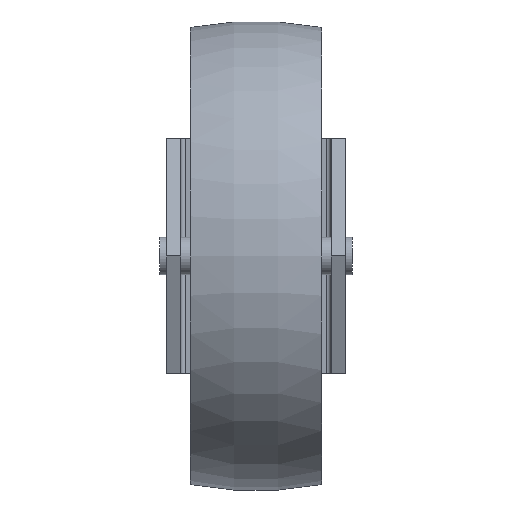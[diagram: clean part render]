
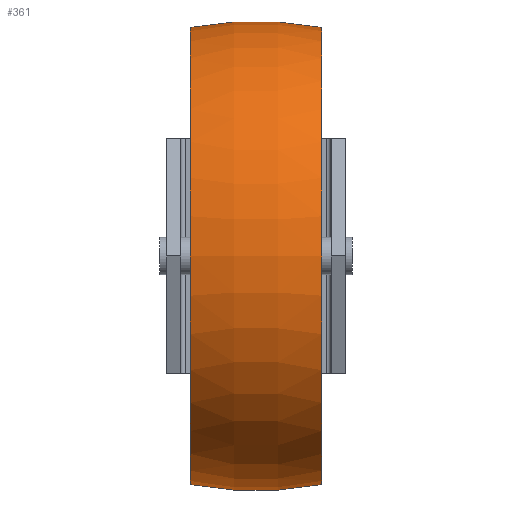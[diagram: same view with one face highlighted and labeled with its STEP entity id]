
A CAD part, front view. The second image highlights one B-rep face of the part: STEP entity #361.
In plain terms, the highlighted toroidal (fillet/blend) face has major radius 25 mm and minor radius 75 mm.
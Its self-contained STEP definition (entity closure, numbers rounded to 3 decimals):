
#45 = DIRECTION ( 'NONE',  ( 0., 0., 1. ) ) ;
#54 = VERTEX_POINT ( 'NONE', #654 ) ;
#57 = FACE_OUTER_BOUND ( 'NONE', #204, .T. ) ;
#70 = VERTEX_POINT ( 'NONE', #1001 ) ;
#79 = DIRECTION ( 'NONE',  ( 1., 0., 0. ) ) ;
#170 = VERTEX_POINT ( 'NONE', #177 ) ;
#177 = CARTESIAN_POINT ( 'NONE',  ( -14., -78., -48.682 ) ) ;
#204 = EDGE_LOOP ( 'NONE', ( #509, #577, #411, #929 ) ) ;
#220 = DIRECTION ( 'NONE',  ( 0., 0., -1. ) ) ;
#223 = VERTEX_POINT ( 'NONE', #313 ) ;
#242 = CARTESIAN_POINT ( 'NONE',  ( 14., -78., 0. ) ) ;
#291 = AXIS2_PLACEMENT_3D ( 'NONE', #1034, #685, #403 ) ;
#313 = CARTESIAN_POINT ( 'NONE',  ( -14., -78., 48.682 ) ) ;
#346 = DIRECTION ( 'NONE',  ( 0., 0., -1. ) ) ;
#361 = ADVANCED_FACE ( 'NONE', ( #57 ), #529, .T. ) ;
#364 = EDGE_CURVE ( 'NONE', #170, #54, #486, .T. ) ;
#378 = DIRECTION ( 'NONE',  ( 0., 1., 0. ) ) ;
#391 = AXIS2_PLACEMENT_3D ( 'NONE', #867, #79, #1136 ) ;
#403 = DIRECTION ( 'NONE',  ( 0., 0., -1. ) ) ;
#411 = ORIENTED_EDGE ( 'NONE', *, *, #364, .T. ) ;
#422 = DIRECTION ( 'NONE',  ( 1., 0., 0. ) ) ;
#485 = CIRCLE ( 'NONE', #502, 48.682 ) ;
#486 = CIRCLE ( 'NONE', #875, 75. ) ;
#502 = AXIS2_PLACEMENT_3D ( 'NONE', #242, #422, #220 ) ;
#509 = ORIENTED_EDGE ( 'NONE', *, *, #531, .F. ) ;
#529 = TOROIDAL_SURFACE ( 'NONE', #391, -25., 75. ) ;
#531 = EDGE_CURVE ( 'NONE', #223, #70, #1056, .T. ) ;
#577 = ORIENTED_EDGE ( 'NONE', *, *, #626, .T. ) ;
#626 = EDGE_CURVE ( 'NONE', #223, #170, #973, .T. ) ;
#636 = EDGE_CURVE ( 'NONE', #70, #54, #485, .T. ) ;
#654 = CARTESIAN_POINT ( 'NONE',  ( 14., -78., -48.682 ) ) ;
#685 = DIRECTION ( 'NONE',  ( 1., 0., 0. ) ) ;
#769 = CARTESIAN_POINT ( 'NONE',  ( 0., -78., 25. ) ) ;
#774 = DIRECTION ( 'NONE',  ( 0., -1., 0. ) ) ;
#807 = CARTESIAN_POINT ( 'NONE',  ( 0., -78., -25. ) ) ;
#867 = CARTESIAN_POINT ( 'NONE',  ( 0., -78., 0. ) ) ;
#875 = AXIS2_PLACEMENT_3D ( 'NONE', #769, #774, #346 ) ;
#929 = ORIENTED_EDGE ( 'NONE', *, *, #636, .F. ) ;
#973 = CIRCLE ( 'NONE', #291, 48.682 ) ;
#992 = AXIS2_PLACEMENT_3D ( 'NONE', #807, #378, #45 ) ;
#1001 = CARTESIAN_POINT ( 'NONE',  ( 14., -78., 48.682 ) ) ;
#1034 = CARTESIAN_POINT ( 'NONE',  ( -14., -78., 0. ) ) ;
#1056 = CIRCLE ( 'NONE', #992, 75. ) ;
#1136 = DIRECTION ( 'NONE',  ( 0., 0., -1. ) ) ;
